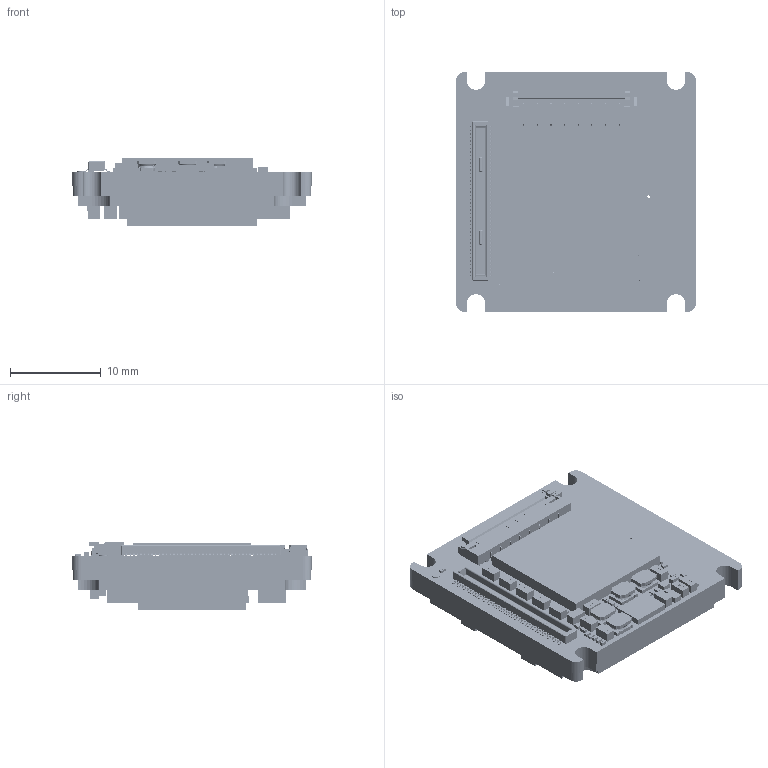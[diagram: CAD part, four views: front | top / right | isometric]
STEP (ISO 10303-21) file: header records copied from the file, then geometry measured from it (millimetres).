
FILE_DESCRIPTION (( 'STEP AP214' ), '1' );
FILE_NAME ('Alvium-CSI2-Bare-Board-IMX548.STEP', '2022-11-17T12:38:59', ( '' ), ( '' ), 'SwSTEP 2.0', 'SolidWorks 2021', '' );
FILE_SCHEMA (( 'AUTOMOTIVE_DESIGN' ));
Length unit declared in the file: millimetre
Products named in the file (1): Alvium-CSI2-Bare-Board-IMX548
Bounding box: 26.4 x 26.4 x 7.43 mm (x, y, z)
Volume: 3273.3 mm3; surface area: 4253.6 mm2
Topology: 165 solids, 165 shells, 10992 faces, 27853 edges, 18140 vertices
Faces by surface type: plane 5794, bspline 4310, cylinder 840, torus 28, sphere 16, cone 4
Entity records: 696287 total; most frequent: CARTESIAN_POINT 337876, ORIENTED_EDGE 55674, DIRECTION 34231, EDGE_CURVE 27837, VERTEX_POINT 18140, VECTOR 17433, LINE 17433, EDGE_LOOP 11975
